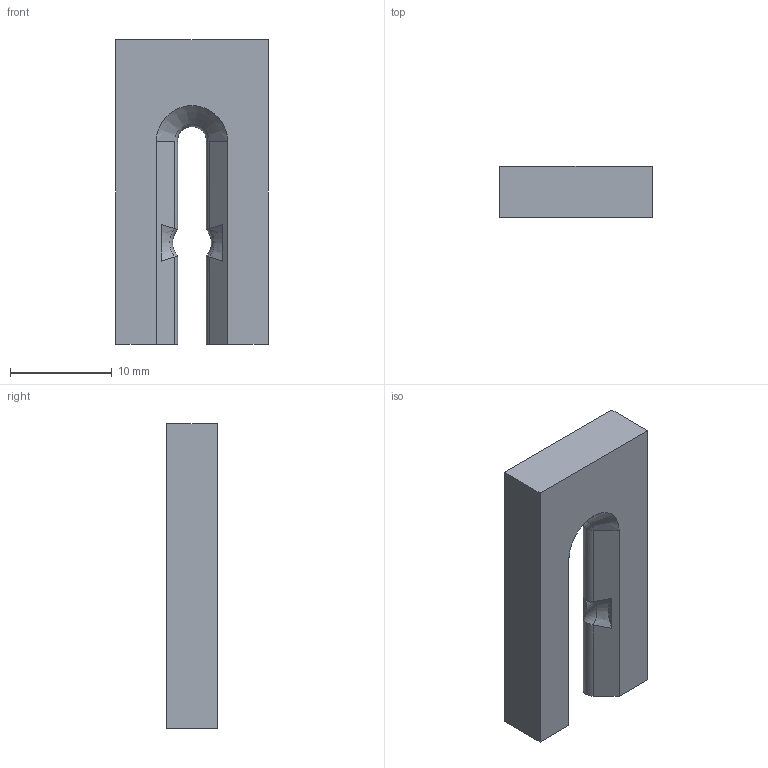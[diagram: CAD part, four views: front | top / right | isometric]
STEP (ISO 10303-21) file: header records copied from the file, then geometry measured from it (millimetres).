
FILE_DESCRIPTION(/* description */ (''),/* implementation_level */ '2;1');
FILE_NAME(/* name */ 'blade base.step',/* time_stamp */ '2025-08-29T14:59:01-04:00',/* author */ (''),/* organization */ (''),/* preprocessor_version */ 'ST-DEVELOPER v20.1',/* originating_system */ 'Autodesk Translation Framework v14.10.0.0',/* authorisation */ '');
FILE_SCHEMA (('AUTOMOTIVE_DESIGN { 1 0 10303 214 3 1 1 }'));
Length unit declared in the file: millimetre
Products named in the file (1): blade base
Bounding box: 15 x 5 x 30 mm (x, y, z)
Volume: 1739.4 mm3; surface area: 1323.3 mm2
Topology: 1 solids, 1 shells, 28 faces, 66 edges, 40 vertices
Faces by surface type: plane 15, cone 6, cylinder 4, torus 3
Entity records: 859 total; most frequent: CARTESIAN_POINT 211, ORIENTED_EDGE 132, DIRECTION 120, EDGE_CURVE 66, AXIS2_PLACEMENT_3D 41, VERTEX_POINT 40, LINE 38, VECTOR 38
